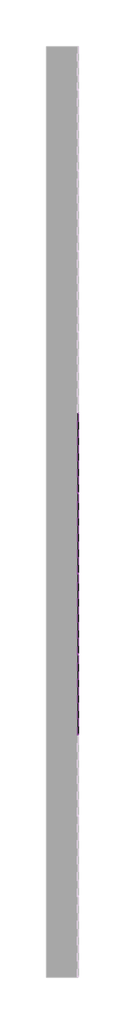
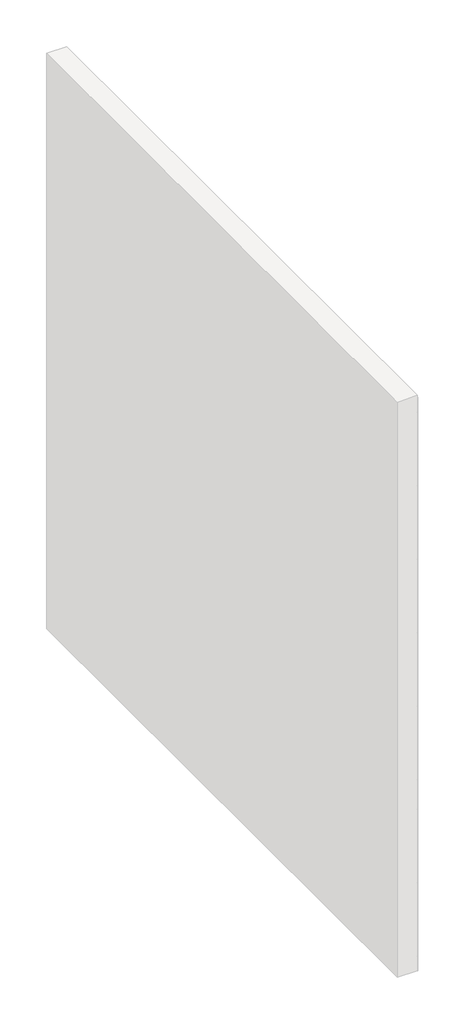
# One storey, part 10 of 45: 147 proxies.
"""IFC4 building model written with IfcOpenShell, lengths in millimetres."""

from ifc_helpers import new_model, si_unit, origin, place, context, project, spatial, transform, mapped, element, save
from components import generic_models_ab0f2c30

model = new_model("IFC4")

# Units and contexts
model_context = context("Model", 3, world=origin())
ifc_project = project(units=[si_unit("LENGTHUNIT", "METRE", prefix="MILLI")], contexts=[model_context])

# Site, building, storey
site = spatial("IfcSite", under=ifc_project)
building = spatial("IfcBuilding", under=site)
storey = spatial("IfcBuildingStorey", under=building, Name="PORTOBELLO - SHOWROOM", Elevation=0.0)

# Proxies
placement = place(None, origin())
generic_models_shape = generic_models_ab0f2c30(model_context)
element("IfcBuildingElementProxy", 1, Name="PBSHOP - HORIZONTES SANTORINI 6,5X23 : SANTORINI VILLA", ObjectType="PBSHOP - HORIZONTES SANTORINI 6,5X23 : SANTORINI VILLA", at=placement, inside=storey, context=model_context, shape_type="MappedRepresentation", body=[
    mapped(generic_models_shape, transform((63939.1036979, 12130.0312463, 34.5), x_axis=(0.0, 0.0, 1.0), y_axis=(0.0, -1.0, 0.0), z_axis=(1.0, 0.0, 0.0))),
])
element("IfcBuildingElementProxy", 2, Name="PBSHOP - HORIZONTES SANTORINI 6,5X23 : SANTORINI VILLA", ObjectType="PBSHOP - HORIZONTES SANTORINI 6,5X23 : SANTORINI VILLA", at=placement, inside=storey, context=model_context, shape_type="MappedRepresentation", body=[
    mapped(generic_models_shape, transform((63939.1036979, 12364.0312463, 34.5), x_axis=(0.0, 0.0, 1.0), y_axis=(0.0, -1.0, 0.0), z_axis=(1.0, 0.0, 0.0))),
])
element("IfcBuildingElementProxy", 3, Name="PBSHOP - HORIZONTES SANTORINI 6,5X23 : SANTORINI VILLA", ObjectType="PBSHOP - HORIZONTES SANTORINI 6,5X23 : SANTORINI VILLA", at=placement, inside=storey, context=model_context, shape_type="MappedRepresentation", body=[
    mapped(generic_models_shape, transform((63939.1036979, 12598.0312463, 34.5), x_axis=(0.0, 0.0, 1.0), y_axis=(0.0, -1.0, 0.0), z_axis=(1.0, 0.0, 0.0))),
])
element("IfcBuildingElementProxy", 4, Name="PBSHOP - HORIZONTES SANTORINI 6,5X23 : SANTORINI VILLA", ObjectType="PBSHOP - HORIZONTES SANTORINI 6,5X23 : SANTORINI VILLA", at=placement, inside=storey, context=model_context, shape_type="MappedRepresentation", body=[
    mapped(generic_models_shape, transform((63939.1036979, 12832.0312463, 34.5), x_axis=(0.0, 0.0, 1.0), y_axis=(0.0, -1.0, 0.0), z_axis=(1.0, 0.0, 0.0))),
])
element("IfcBuildingElementProxy", 5, Name="PBSHOP - HORIZONTES SANTORINI 6,5X23 : SANTORINI VILLA", ObjectType="PBSHOP - HORIZONTES SANTORINI 6,5X23 : SANTORINI VILLA", at=placement, inside=storey, context=model_context, shape_type="MappedRepresentation", body=[
    mapped(generic_models_shape, transform((63939.1036979, 12130.0312463, 103.5), x_axis=(0.0, 0.0, 1.0), y_axis=(0.0, -1.0, 0.0), z_axis=(1.0, 0.0, 0.0))),
])
element("IfcBuildingElementProxy", 6, Name="PBSHOP - HORIZONTES SANTORINI 6,5X23 : SANTORINI VILLA", ObjectType="PBSHOP - HORIZONTES SANTORINI 6,5X23 : SANTORINI VILLA", at=placement, inside=storey, context=model_context, shape_type="MappedRepresentation", body=[
    mapped(generic_models_shape, transform((63939.1036979, 12364.0312463, 103.5), x_axis=(0.0, 0.0, 1.0), y_axis=(0.0, -1.0, 0.0), z_axis=(1.0, 0.0, 0.0))),
])
element("IfcBuildingElementProxy", 7, Name="PBSHOP - HORIZONTES SANTORINI 6,5X23 : SANTORINI VILLA", ObjectType="PBSHOP - HORIZONTES SANTORINI 6,5X23 : SANTORINI VILLA", at=placement, inside=storey, context=model_context, shape_type="MappedRepresentation", body=[
    mapped(generic_models_shape, transform((63939.1036979, 12598.0312463, 103.5), x_axis=(0.0, 0.0, 1.0), y_axis=(0.0, -1.0, 0.0), z_axis=(1.0, 0.0, 0.0))),
])
element("IfcBuildingElementProxy", 8, Name="PBSHOP - HORIZONTES SANTORINI 6,5X23 : SANTORINI VILLA", ObjectType="PBSHOP - HORIZONTES SANTORINI 6,5X23 : SANTORINI VILLA", at=placement, inside=storey, context=model_context, shape_type="MappedRepresentation", body=[
    mapped(generic_models_shape, transform((63939.1036979, 12832.0312463, 103.5), x_axis=(0.0, 0.0, 1.0), y_axis=(0.0, -1.0, 0.0), z_axis=(1.0, 0.0, 0.0))),
])
element("IfcBuildingElementProxy", 9, Name="PBSHOP - HORIZONTES SANTORINI 6,5X23 : SANTORINI VILLA", ObjectType="PBSHOP - HORIZONTES SANTORINI 6,5X23 : SANTORINI VILLA", at=placement, inside=storey, context=model_context, shape_type="MappedRepresentation", body=[
    mapped(generic_models_shape, transform((63939.1036979, 12130.0312463, 172.5), x_axis=(0.0, 0.0, 1.0), y_axis=(0.0, -1.0, 0.0), z_axis=(1.0, 0.0, 0.0))),
])
element("IfcBuildingElementProxy", 10, Name="PBSHOP - HORIZONTES SANTORINI 6,5X23 : SANTORINI VILLA", ObjectType="PBSHOP - HORIZONTES SANTORINI 6,5X23 : SANTORINI VILLA", at=placement, inside=storey, context=model_context, shape_type="MappedRepresentation", body=[
    mapped(generic_models_shape, transform((63939.1036979, 12364.0312463, 172.5), x_axis=(0.0, 0.0, 1.0), y_axis=(0.0, -1.0, 0.0), z_axis=(1.0, 0.0, 0.0))),
])
element("IfcBuildingElementProxy", 11, Name="PBSHOP - HORIZONTES SANTORINI 6,5X23 : SANTORINI VILLA", ObjectType="PBSHOP - HORIZONTES SANTORINI 6,5X23 : SANTORINI VILLA", at=placement, inside=storey, context=model_context, shape_type="MappedRepresentation", body=[
    mapped(generic_models_shape, transform((63939.1036979, 12598.0312463, 172.5), x_axis=(0.0, 0.0, 1.0), y_axis=(0.0, -1.0, 0.0), z_axis=(1.0, 0.0, 0.0))),
])
element("IfcBuildingElementProxy", 12, Name="PBSHOP - HORIZONTES SANTORINI 6,5X23 : SANTORINI VILLA", ObjectType="PBSHOP - HORIZONTES SANTORINI 6,5X23 : SANTORINI VILLA", at=placement, inside=storey, context=model_context, shape_type="MappedRepresentation", body=[
    mapped(generic_models_shape, transform((63939.1036979, 12832.0312463, 172.5), x_axis=(0.0, 0.0, 1.0), y_axis=(0.0, -1.0, 0.0), z_axis=(1.0, 0.0, 0.0))),
])
element("IfcBuildingElementProxy", 13, Name="PBSHOP - HORIZONTES SANTORINI 6,5X23 : SANTORINI VILLA", ObjectType="PBSHOP - HORIZONTES SANTORINI 6,5X23 : SANTORINI VILLA", at=placement, inside=storey, context=model_context, shape_type="MappedRepresentation", body=[
    mapped(generic_models_shape, transform((63939.1036979, 12130.0312463, 241.5), x_axis=(0.0, 0.0, 1.0), y_axis=(0.0, -1.0, 0.0), z_axis=(1.0, 0.0, 0.0))),
])
element("IfcBuildingElementProxy", 14, Name="PBSHOP - HORIZONTES SANTORINI 6,5X23 : SANTORINI VILLA", ObjectType="PBSHOP - HORIZONTES SANTORINI 6,5X23 : SANTORINI VILLA", at=placement, inside=storey, context=model_context, shape_type="MappedRepresentation", body=[
    mapped(generic_models_shape, transform((63939.1036979, 12364.0312463, 241.5), x_axis=(0.0, 0.0, 1.0), y_axis=(0.0, -1.0, 0.0), z_axis=(1.0, 0.0, 0.0))),
])
element("IfcBuildingElementProxy", 15, Name="PBSHOP - HORIZONTES SANTORINI 6,5X23 : SANTORINI VILLA", ObjectType="PBSHOP - HORIZONTES SANTORINI 6,5X23 : SANTORINI VILLA", at=placement, inside=storey, context=model_context, shape_type="MappedRepresentation", body=[
    mapped(generic_models_shape, transform((63939.1036979, 12598.0312463, 241.5), x_axis=(0.0, 0.0, 1.0), y_axis=(0.0, -1.0, 0.0), z_axis=(1.0, 0.0, 0.0))),
])
element("IfcBuildingElementProxy", 16, Name="PBSHOP - HORIZONTES SANTORINI 6,5X23 : SANTORINI VILLA", ObjectType="PBSHOP - HORIZONTES SANTORINI 6,5X23 : SANTORINI VILLA", at=placement, inside=storey, context=model_context, shape_type="MappedRepresentation", body=[
    mapped(generic_models_shape, transform((63939.1036979, 12832.0312463, 241.5), x_axis=(0.0, 0.0, 1.0), y_axis=(0.0, -1.0, 0.0), z_axis=(1.0, 0.0, 0.0))),
])
element("IfcBuildingElementProxy", 17, Name="PBSHOP - HORIZONTES SANTORINI 6,5X23 : SANTORINI VILLA", ObjectType="PBSHOP - HORIZONTES SANTORINI 6,5X23 : SANTORINI VILLA", at=placement, inside=storey, context=model_context, shape_type="MappedRepresentation", body=[
    mapped(generic_models_shape, transform((63939.1036979, 12130.0312463, 310.5), x_axis=(0.0, 0.0, 1.0), y_axis=(0.0, -1.0, 0.0), z_axis=(1.0, 0.0, 0.0))),
])
element("IfcBuildingElementProxy", 18, Name="PBSHOP - HORIZONTES SANTORINI 6,5X23 : SANTORINI VILLA", ObjectType="PBSHOP - HORIZONTES SANTORINI 6,5X23 : SANTORINI VILLA", at=placement, inside=storey, context=model_context, shape_type="MappedRepresentation", body=[
    mapped(generic_models_shape, transform((63939.1036979, 12364.0312463, 310.5), x_axis=(0.0, 0.0, 1.0), y_axis=(0.0, -1.0, 0.0), z_axis=(1.0, 0.0, 0.0))),
])
element("IfcBuildingElementProxy", 19, Name="PBSHOP - HORIZONTES SANTORINI 6,5X23 : SANTORINI VILLA", ObjectType="PBSHOP - HORIZONTES SANTORINI 6,5X23 : SANTORINI VILLA", at=placement, inside=storey, context=model_context, shape_type="MappedRepresentation", body=[
    mapped(generic_models_shape, transform((63939.1036979, 12598.0312463, 310.5), x_axis=(0.0, 0.0, 1.0), y_axis=(0.0, -1.0, 0.0), z_axis=(1.0, 0.0, 0.0))),
])
element("IfcBuildingElementProxy", 20, Name="PBSHOP - HORIZONTES SANTORINI 6,5X23 : SANTORINI VILLA", ObjectType="PBSHOP - HORIZONTES SANTORINI 6,5X23 : SANTORINI VILLA", at=placement, inside=storey, context=model_context, shape_type="MappedRepresentation", body=[
    mapped(generic_models_shape, transform((63939.1036979, 12832.0312463, 310.5), x_axis=(0.0, 0.0, 1.0), y_axis=(0.0, -1.0, 0.0), z_axis=(1.0, 0.0, 0.0))),
])
element("IfcBuildingElementProxy", 21, Name="PBSHOP - HORIZONTES SANTORINI 6,5X23 : SANTORINI VILLA", ObjectType="PBSHOP - HORIZONTES SANTORINI 6,5X23 : SANTORINI VILLA", at=placement, inside=storey, context=model_context, shape_type="MappedRepresentation", body=[
    mapped(generic_models_shape, transform((63939.1036979, 12130.0312463, 379.5), x_axis=(0.0, 0.0, 1.0), y_axis=(0.0, -1.0, 0.0), z_axis=(1.0, 0.0, 0.0))),
])
element("IfcBuildingElementProxy", 22, Name="PBSHOP - HORIZONTES SANTORINI 6,5X23 : SANTORINI VILLA", ObjectType="PBSHOP - HORIZONTES SANTORINI 6,5X23 : SANTORINI VILLA", at=placement, inside=storey, context=model_context, shape_type="MappedRepresentation", body=[
    mapped(generic_models_shape, transform((63939.1036979, 12364.0312463, 379.5), x_axis=(0.0, 0.0, 1.0), y_axis=(0.0, -1.0, 0.0), z_axis=(1.0, 0.0, 0.0))),
])
element("IfcBuildingElementProxy", 23, Name="PBSHOP - HORIZONTES SANTORINI 6,5X23 : SANTORINI VILLA", ObjectType="PBSHOP - HORIZONTES SANTORINI 6,5X23 : SANTORINI VILLA", at=placement, inside=storey, context=model_context, shape_type="MappedRepresentation", body=[
    mapped(generic_models_shape, transform((63939.1036979, 12598.0312463, 379.5), x_axis=(0.0, 0.0, 1.0), y_axis=(0.0, -1.0, 0.0), z_axis=(1.0, 0.0, 0.0))),
])
element("IfcBuildingElementProxy", 24, Name="PBSHOP - HORIZONTES SANTORINI 6,5X23 : SANTORINI VILLA", ObjectType="PBSHOP - HORIZONTES SANTORINI 6,5X23 : SANTORINI VILLA", at=placement, inside=storey, context=model_context, shape_type="MappedRepresentation", body=[
    mapped(generic_models_shape, transform((63939.1036979, 12832.0312463, 379.5), x_axis=(0.0, 0.0, 1.0), y_axis=(0.0, -1.0, 0.0), z_axis=(1.0, 0.0, 0.0))),
])
element("IfcBuildingElementProxy", 25, Name="PBSHOP - HORIZONTES SANTORINI 6,5X23 : SANTORINI VILLA", ObjectType="PBSHOP - HORIZONTES SANTORINI 6,5X23 : SANTORINI VILLA", at=placement, inside=storey, context=model_context, shape_type="MappedRepresentation", body=[
    mapped(generic_models_shape, transform((63939.1036979, 12130.0312463, 448.5), x_axis=(0.0, 0.0, 1.0), y_axis=(0.0, -1.0, 0.0), z_axis=(1.0, 0.0, 0.0))),
])
element("IfcBuildingElementProxy", 26, Name="PBSHOP - HORIZONTES SANTORINI 6,5X23 : SANTORINI VILLA", ObjectType="PBSHOP - HORIZONTES SANTORINI 6,5X23 : SANTORINI VILLA", at=placement, inside=storey, context=model_context, shape_type="MappedRepresentation", body=[
    mapped(generic_models_shape, transform((63939.1036979, 12364.0312463, 448.5), x_axis=(0.0, 0.0, 1.0), y_axis=(0.0, -1.0, 0.0), z_axis=(1.0, 0.0, 0.0))),
])
element("IfcBuildingElementProxy", 27, Name="PBSHOP - HORIZONTES SANTORINI 6,5X23 : SANTORINI VILLA", ObjectType="PBSHOP - HORIZONTES SANTORINI 6,5X23 : SANTORINI VILLA", at=placement, inside=storey, context=model_context, shape_type="MappedRepresentation", body=[
    mapped(generic_models_shape, transform((63939.1036979, 12598.0312463, 448.5), x_axis=(0.0, 0.0, 1.0), y_axis=(0.0, -1.0, 0.0), z_axis=(1.0, 0.0, 0.0))),
])
element("IfcBuildingElementProxy", 28, Name="PBSHOP - HORIZONTES SANTORINI 6,5X23 : SANTORINI VILLA", ObjectType="PBSHOP - HORIZONTES SANTORINI 6,5X23 : SANTORINI VILLA", at=placement, inside=storey, context=model_context, shape_type="MappedRepresentation", body=[
    mapped(generic_models_shape, transform((63939.1036979, 12832.0312463, 448.5), x_axis=(0.0, 0.0, 1.0), y_axis=(0.0, -1.0, 0.0), z_axis=(1.0, 0.0, 0.0))),
])
element("IfcBuildingElementProxy", 29, Name="PBSHOP - HORIZONTES SANTORINI 6,5X23 : SANTORINI VILLA", ObjectType="PBSHOP - HORIZONTES SANTORINI 6,5X23 : SANTORINI VILLA", at=placement, inside=storey, context=model_context, shape_type="MappedRepresentation", body=[
    mapped(generic_models_shape, transform((63939.1036979, 12130.0312463, 517.5), x_axis=(0.0, 0.0, 1.0), y_axis=(0.0, -1.0, 0.0), z_axis=(1.0, 0.0, 0.0))),
])
element("IfcBuildingElementProxy", 30, Name="PBSHOP - HORIZONTES SANTORINI 6,5X23 : SANTORINI VILLA", ObjectType="PBSHOP - HORIZONTES SANTORINI 6,5X23 : SANTORINI VILLA", at=placement, inside=storey, context=model_context, shape_type="MappedRepresentation", body=[
    mapped(generic_models_shape, transform((63939.1036979, 12364.0312463, 517.5), x_axis=(0.0, 0.0, 1.0), y_axis=(0.0, -1.0, 0.0), z_axis=(1.0, 0.0, 0.0))),
])
element("IfcBuildingElementProxy", 31, Name="PBSHOP - HORIZONTES SANTORINI 6,5X23 : SANTORINI VILLA", ObjectType="PBSHOP - HORIZONTES SANTORINI 6,5X23 : SANTORINI VILLA", at=placement, inside=storey, context=model_context, shape_type="MappedRepresentation", body=[
    mapped(generic_models_shape, transform((63939.1036979, 12598.0312463, 517.5), x_axis=(0.0, 0.0, 1.0), y_axis=(0.0, -1.0, 0.0), z_axis=(1.0, 0.0, 0.0))),
])
element("IfcBuildingElementProxy", 32, Name="PBSHOP - HORIZONTES SANTORINI 6,5X23 : SANTORINI VILLA", ObjectType="PBSHOP - HORIZONTES SANTORINI 6,5X23 : SANTORINI VILLA", at=placement, inside=storey, context=model_context, shape_type="MappedRepresentation", body=[
    mapped(generic_models_shape, transform((63939.1036979, 12832.0312463, 517.5), x_axis=(0.0, 0.0, 1.0), y_axis=(0.0, -1.0, 0.0), z_axis=(1.0, 0.0, 0.0))),
])
element("IfcBuildingElementProxy", 33, Name="PBSHOP - HORIZONTES SANTORINI 6,5X23 : SANTORINI VILLA", ObjectType="PBSHOP - HORIZONTES SANTORINI 6,5X23 : SANTORINI VILLA", at=placement, inside=storey, context=model_context, shape_type="MappedRepresentation", body=[
    mapped(generic_models_shape, transform((63939.1036979, 12130.0312463, 586.5), x_axis=(0.0, 0.0, 1.0), y_axis=(0.0, -1.0, 0.0), z_axis=(1.0, 0.0, 0.0))),
])
element("IfcBuildingElementProxy", 34, Name="PBSHOP - HORIZONTES SANTORINI 6,5X23 : SANTORINI VILLA", ObjectType="PBSHOP - HORIZONTES SANTORINI 6,5X23 : SANTORINI VILLA", at=placement, inside=storey, context=model_context, shape_type="MappedRepresentation", body=[
    mapped(generic_models_shape, transform((63939.1036979, 12364.0312463, 586.5), x_axis=(0.0, 0.0, 1.0), y_axis=(0.0, -1.0, 0.0), z_axis=(1.0, 0.0, 0.0))),
])
element("IfcBuildingElementProxy", 35, Name="PBSHOP - HORIZONTES SANTORINI 6,5X23 : SANTORINI VILLA", ObjectType="PBSHOP - HORIZONTES SANTORINI 6,5X23 : SANTORINI VILLA", at=placement, inside=storey, context=model_context, shape_type="MappedRepresentation", body=[
    mapped(generic_models_shape, transform((63939.1036979, 12598.0312463, 586.5), x_axis=(0.0, 0.0, 1.0), y_axis=(0.0, -1.0, 0.0), z_axis=(1.0, 0.0, 0.0))),
])
element("IfcBuildingElementProxy", 36, Name="PBSHOP - HORIZONTES SANTORINI 6,5X23 : SANTORINI VILLA", ObjectType="PBSHOP - HORIZONTES SANTORINI 6,5X23 : SANTORINI VILLA", at=placement, inside=storey, context=model_context, shape_type="MappedRepresentation", body=[
    mapped(generic_models_shape, transform((63939.1036979, 12832.0312463, 586.5), x_axis=(0.0, 0.0, 1.0), y_axis=(0.0, -1.0, 0.0), z_axis=(1.0, 0.0, 0.0))),
])
element("IfcBuildingElementProxy", 37, Name="PBSHOP - HORIZONTES SANTORINI 6,5X23 : SANTORINI VILLA", ObjectType="PBSHOP - HORIZONTES SANTORINI 6,5X23 : SANTORINI VILLA", at=placement, inside=storey, context=model_context, shape_type="MappedRepresentation", body=[
    mapped(generic_models_shape, transform((63939.1036979, 12130.0312463, 655.5), x_axis=(0.0, 0.0, 1.0), y_axis=(0.0, -1.0, 0.0), z_axis=(1.0, 0.0, 0.0))),
])
element("IfcBuildingElementProxy", 38, Name="PBSHOP - HORIZONTES SANTORINI 6,5X23 : SANTORINI VILLA", ObjectType="PBSHOP - HORIZONTES SANTORINI 6,5X23 : SANTORINI VILLA", at=placement, inside=storey, context=model_context, shape_type="MappedRepresentation", body=[
    mapped(generic_models_shape, transform((63939.1036979, 12364.0312463, 655.5), x_axis=(0.0, 0.0, 1.0), y_axis=(0.0, -1.0, 0.0), z_axis=(1.0, 0.0, 0.0))),
])
element("IfcBuildingElementProxy", 39, Name="PBSHOP - HORIZONTES SANTORINI 6,5X23 : SANTORINI VILLA", ObjectType="PBSHOP - HORIZONTES SANTORINI 6,5X23 : SANTORINI VILLA", at=placement, inside=storey, context=model_context, shape_type="MappedRepresentation", body=[
    mapped(generic_models_shape, transform((63939.1036979, 12598.0312463, 655.5), x_axis=(0.0, 0.0, 1.0), y_axis=(0.0, -1.0, 0.0), z_axis=(1.0, 0.0, 0.0))),
])
element("IfcBuildingElementProxy", 40, Name="PBSHOP - HORIZONTES SANTORINI 6,5X23 : SANTORINI VILLA", ObjectType="PBSHOP - HORIZONTES SANTORINI 6,5X23 : SANTORINI VILLA", at=placement, inside=storey, context=model_context, shape_type="MappedRepresentation", body=[
    mapped(generic_models_shape, transform((63939.1036979, 12832.0312463, 655.5), x_axis=(0.0, 0.0, 1.0), y_axis=(0.0, -1.0, 0.0), z_axis=(1.0, 0.0, 0.0))),
])
element("IfcBuildingElementProxy", 41, Name="PBSHOP - HORIZONTES SANTORINI 6,5X23 : SANTORINI VILLA", ObjectType="PBSHOP - HORIZONTES SANTORINI 6,5X23 : SANTORINI VILLA", at=placement, inside=storey, context=model_context, shape_type="MappedRepresentation", body=[
    mapped(generic_models_shape, transform((63939.1036979, 12130.0312463, 724.5), x_axis=(0.0, 0.0, 1.0), y_axis=(0.0, -1.0, 0.0), z_axis=(1.0, 0.0, 0.0))),
])
element("IfcBuildingElementProxy", 42, Name="PBSHOP - HORIZONTES SANTORINI 6,5X23 : SANTORINI VILLA", ObjectType="PBSHOP - HORIZONTES SANTORINI 6,5X23 : SANTORINI VILLA", at=placement, inside=storey, context=model_context, shape_type="MappedRepresentation", body=[
    mapped(generic_models_shape, transform((63939.1036979, 12364.0312463, 724.5), x_axis=(0.0, 0.0, 1.0), y_axis=(0.0, -1.0, 0.0), z_axis=(1.0, 0.0, 0.0))),
])
element("IfcBuildingElementProxy", 43, Name="PBSHOP - HORIZONTES SANTORINI 6,5X23 : SANTORINI VILLA", ObjectType="PBSHOP - HORIZONTES SANTORINI 6,5X23 : SANTORINI VILLA", at=placement, inside=storey, context=model_context, shape_type="MappedRepresentation", body=[
    mapped(generic_models_shape, transform((63939.1036979, 11896.0312463, 862.5), x_axis=(0.0, 0.0, 1.0), y_axis=(0.0, -1.0, 0.0), z_axis=(1.0, 0.0, 0.0))),
])
element("IfcBuildingElementProxy", 44, Name="PBSHOP - HORIZONTES SANTORINI 6,5X23 : SANTORINI VILLA", ObjectType="PBSHOP - HORIZONTES SANTORINI 6,5X23 : SANTORINI VILLA", at=placement, inside=storey, context=model_context, shape_type="MappedRepresentation", body=[
    mapped(generic_models_shape, transform((63939.1036979, 11194.0312463, 931.5), x_axis=(0.0, 0.0, 1.0), y_axis=(0.0, -1.0, 0.0), z_axis=(1.0, 0.0, 0.0))),
])
element("IfcBuildingElementProxy", 45, Name="PBSHOP - HORIZONTES SANTORINI 6,5X23 : SANTORINI VILLA", ObjectType="PBSHOP - HORIZONTES SANTORINI 6,5X23 : SANTORINI VILLA", at=placement, inside=storey, context=model_context, shape_type="MappedRepresentation", body=[
    mapped(generic_models_shape, transform((63939.1036979, 11428.0312463, 931.5), x_axis=(0.0, 0.0, 1.0), y_axis=(0.0, -1.0, 0.0), z_axis=(1.0, 0.0, 0.0))),
])
element("IfcBuildingElementProxy", 46, Name="PBSHOP - HORIZONTES SANTORINI 6,5X23 : SANTORINI VILLA", ObjectType="PBSHOP - HORIZONTES SANTORINI 6,5X23 : SANTORINI VILLA", at=placement, inside=storey, context=model_context, shape_type="MappedRepresentation", body=[
    mapped(generic_models_shape, transform((63939.1036979, 11662.0312463, 931.5), x_axis=(0.0, 0.0, 1.0), y_axis=(0.0, -1.0, 0.0), z_axis=(1.0, 0.0, 0.0))),
])
element("IfcBuildingElementProxy", 47, Name="PBSHOP - HORIZONTES SANTORINI 6,5X23 : SANTORINI VILLA", ObjectType="PBSHOP - HORIZONTES SANTORINI 6,5X23 : SANTORINI VILLA", at=placement, inside=storey, context=model_context, shape_type="MappedRepresentation", body=[
    mapped(generic_models_shape, transform((63939.1036979, 11896.0312463, 931.5), x_axis=(0.0, 0.0, 1.0), y_axis=(0.0, -1.0, 0.0), z_axis=(1.0, 0.0, 0.0))),
])
element("IfcBuildingElementProxy", 48, Name="PBSHOP - HORIZONTES SANTORINI 6,5X23 : SANTORINI VILLA", ObjectType="PBSHOP - HORIZONTES SANTORINI 6,5X23 : SANTORINI VILLA", at=placement, inside=storey, context=model_context, shape_type="MappedRepresentation", body=[
    mapped(generic_models_shape, transform((63939.1036979, 11194.0312463, 1000.5), x_axis=(0.0, 0.0, 1.0), y_axis=(0.0, -1.0, 0.0), z_axis=(1.0, 0.0, 0.0))),
])
element("IfcBuildingElementProxy", 49, Name="PBSHOP - HORIZONTES SANTORINI 6,5X23 : SANTORINI VILLA", ObjectType="PBSHOP - HORIZONTES SANTORINI 6,5X23 : SANTORINI VILLA", at=placement, inside=storey, context=model_context, shape_type="MappedRepresentation", body=[
    mapped(generic_models_shape, transform((63939.1036979, 11428.0312463, 1000.5), x_axis=(0.0, 0.0, 1.0), y_axis=(0.0, -1.0, 0.0), z_axis=(1.0, 0.0, 0.0))),
])
element("IfcBuildingElementProxy", 50, Name="PBSHOP - HORIZONTES SANTORINI 6,5X23 : SANTORINI VILLA", ObjectType="PBSHOP - HORIZONTES SANTORINI 6,5X23 : SANTORINI VILLA", at=placement, inside=storey, context=model_context, shape_type="MappedRepresentation", body=[
    mapped(generic_models_shape, transform((63939.1036979, 11662.0312463, 1000.5), x_axis=(0.0, 0.0, 1.0), y_axis=(0.0, -1.0, 0.0), z_axis=(1.0, 0.0, 0.0))),
])
element("IfcBuildingElementProxy", 51, Name="PBSHOP - HORIZONTES SANTORINI 6,5X23 : SANTORINI VILLA", ObjectType="PBSHOP - HORIZONTES SANTORINI 6,5X23 : SANTORINI VILLA", at=placement, inside=storey, context=model_context, shape_type="MappedRepresentation", body=[
    mapped(generic_models_shape, transform((63939.1036979, 11896.0312463, 1000.5), x_axis=(0.0, 0.0, 1.0), y_axis=(0.0, -1.0, 0.0), z_axis=(1.0, 0.0, 0.0))),
])
element("IfcBuildingElementProxy", 52, Name="PBSHOP - HORIZONTES SANTORINI 6,5X23 : SANTORINI VILLA", ObjectType="PBSHOP - HORIZONTES SANTORINI 6,5X23 : SANTORINI VILLA", at=placement, inside=storey, context=model_context, shape_type="MappedRepresentation", body=[
    mapped(generic_models_shape, transform((63939.1036979, 11194.0312463, 1069.5), x_axis=(0.0, 0.0, 1.0), y_axis=(0.0, -1.0, 0.0), z_axis=(1.0, 0.0, 0.0))),
])
element("IfcBuildingElementProxy", 53, Name="PBSHOP - HORIZONTES SANTORINI 6,5X23 : SANTORINI VILLA", ObjectType="PBSHOP - HORIZONTES SANTORINI 6,5X23 : SANTORINI VILLA", at=placement, inside=storey, context=model_context, shape_type="MappedRepresentation", body=[
    mapped(generic_models_shape, transform((63939.1036979, 11428.0312463, 1069.5), x_axis=(0.0, 0.0, 1.0), y_axis=(0.0, -1.0, 0.0), z_axis=(1.0, 0.0, 0.0))),
])
element("IfcBuildingElementProxy", 54, Name="PBSHOP - HORIZONTES SANTORINI 6,5X23 : SANTORINI VILLA", ObjectType="PBSHOP - HORIZONTES SANTORINI 6,5X23 : SANTORINI VILLA", at=placement, inside=storey, context=model_context, shape_type="MappedRepresentation", body=[
    mapped(generic_models_shape, transform((63939.1036979, 11662.0312463, 1069.5), x_axis=(0.0, 0.0, 1.0), y_axis=(0.0, -1.0, 0.0), z_axis=(1.0, 0.0, 0.0))),
])
element("IfcBuildingElementProxy", 55, Name="PBSHOP - HORIZONTES SANTORINI 6,5X23 : SANTORINI VILLA", ObjectType="PBSHOP - HORIZONTES SANTORINI 6,5X23 : SANTORINI VILLA", at=placement, inside=storey, context=model_context, shape_type="MappedRepresentation", body=[
    mapped(generic_models_shape, transform((63939.1036979, 11896.0312463, 1069.5), x_axis=(0.0, 0.0, 1.0), y_axis=(0.0, -1.0, 0.0), z_axis=(1.0, 0.0, 0.0))),
])
element("IfcBuildingElementProxy", 56, Name="PBSHOP - HORIZONTES SANTORINI 6,5X23 : SANTORINI VILLA", ObjectType="PBSHOP - HORIZONTES SANTORINI 6,5X23 : SANTORINI VILLA", at=placement, inside=storey, context=model_context, shape_type="MappedRepresentation", body=[
    mapped(generic_models_shape, transform((63939.1036979, 11194.0312463, 1138.5), x_axis=(0.0, 0.0, 1.0), y_axis=(0.0, -1.0, 0.0), z_axis=(1.0, 0.0, 0.0))),
])
element("IfcBuildingElementProxy", 57, Name="PBSHOP - HORIZONTES SANTORINI 6,5X23 : SANTORINI VILLA", ObjectType="PBSHOP - HORIZONTES SANTORINI 6,5X23 : SANTORINI VILLA", at=placement, inside=storey, context=model_context, shape_type="MappedRepresentation", body=[
    mapped(generic_models_shape, transform((63939.1036979, 11428.0312463, 1138.5), x_axis=(0.0, 0.0, 1.0), y_axis=(0.0, -1.0, 0.0), z_axis=(1.0, 0.0, 0.0))),
])
element("IfcBuildingElementProxy", 58, Name="PBSHOP - HORIZONTES SANTORINI 6,5X23 : SANTORINI VILLA", ObjectType="PBSHOP - HORIZONTES SANTORINI 6,5X23 : SANTORINI VILLA", at=placement, inside=storey, context=model_context, shape_type="MappedRepresentation", body=[
    mapped(generic_models_shape, transform((63939.1036979, 11662.0312463, 1138.5), x_axis=(0.0, 0.0, 1.0), y_axis=(0.0, -1.0, 0.0), z_axis=(1.0, 0.0, 0.0))),
])
element("IfcBuildingElementProxy", 59, Name="PBSHOP - HORIZONTES SANTORINI 6,5X23 : SANTORINI VILLA", ObjectType="PBSHOP - HORIZONTES SANTORINI 6,5X23 : SANTORINI VILLA", at=placement, inside=storey, context=model_context, shape_type="MappedRepresentation", body=[
    mapped(generic_models_shape, transform((63939.1036979, 11896.0312463, 1138.5), x_axis=(0.0, 0.0, 1.0), y_axis=(0.0, -1.0, 0.0), z_axis=(1.0, 0.0, 0.0))),
])
element("IfcBuildingElementProxy", 60, Name="PBSHOP - HORIZONTES SANTORINI 6,5X23 : SANTORINI VILLA", ObjectType="PBSHOP - HORIZONTES SANTORINI 6,5X23 : SANTORINI VILLA", at=placement, inside=storey, context=model_context, shape_type="MappedRepresentation", body=[
    mapped(generic_models_shape, transform((63939.1036979, 11194.0312463, 1207.5), x_axis=(0.0, 0.0, 1.0), y_axis=(0.0, -1.0, 0.0), z_axis=(1.0, 0.0, 0.0))),
])
element("IfcBuildingElementProxy", 61, Name="PBSHOP - HORIZONTES SANTORINI 6,5X23 : SANTORINI VILLA", ObjectType="PBSHOP - HORIZONTES SANTORINI 6,5X23 : SANTORINI VILLA", at=placement, inside=storey, context=model_context, shape_type="MappedRepresentation", body=[
    mapped(generic_models_shape, transform((63939.1036979, 11428.0312463, 1207.5), x_axis=(0.0, 0.0, 1.0), y_axis=(0.0, -1.0, 0.0), z_axis=(1.0, 0.0, 0.0))),
])
element("IfcBuildingElementProxy", 62, Name="PBSHOP - HORIZONTES SANTORINI 6,5X23 : SANTORINI VILLA", ObjectType="PBSHOP - HORIZONTES SANTORINI 6,5X23 : SANTORINI VILLA", at=placement, inside=storey, context=model_context, shape_type="MappedRepresentation", body=[
    mapped(generic_models_shape, transform((63939.1036979, 11662.0312463, 1207.5), x_axis=(0.0, 0.0, 1.0), y_axis=(0.0, -1.0, 0.0), z_axis=(1.0, 0.0, 0.0))),
])
element("IfcBuildingElementProxy", 63, Name="PBSHOP - HORIZONTES SANTORINI 6,5X23 : SANTORINI VILLA", ObjectType="PBSHOP - HORIZONTES SANTORINI 6,5X23 : SANTORINI VILLA", at=placement, inside=storey, context=model_context, shape_type="MappedRepresentation", body=[
    mapped(generic_models_shape, transform((63939.1036979, 11896.0312463, 1207.5), x_axis=(0.0, 0.0, 1.0), y_axis=(0.0, -1.0, 0.0), z_axis=(1.0, 0.0, 0.0))),
])
element("IfcBuildingElementProxy", 64, Name="PBSHOP - HORIZONTES SANTORINI 6,5X23 : SANTORINI VILLA", ObjectType="PBSHOP - HORIZONTES SANTORINI 6,5X23 : SANTORINI VILLA", at=placement, inside=storey, context=model_context, shape_type="MappedRepresentation", body=[
    mapped(generic_models_shape, transform((63939.1036979, 11194.0312463, 1276.5), x_axis=(0.0, 0.0, 1.0), y_axis=(0.0, -1.0, 0.0), z_axis=(1.0, 0.0, 0.0))),
])
element("IfcBuildingElementProxy", 65, Name="PBSHOP - HORIZONTES SANTORINI 6,5X23 : SANTORINI VILLA", ObjectType="PBSHOP - HORIZONTES SANTORINI 6,5X23 : SANTORINI VILLA", at=placement, inside=storey, context=model_context, shape_type="MappedRepresentation", body=[
    mapped(generic_models_shape, transform((63939.1036979, 11428.0312463, 1276.5), x_axis=(0.0, 0.0, 1.0), y_axis=(0.0, -1.0, 0.0), z_axis=(1.0, 0.0, 0.0))),
])
element("IfcBuildingElementProxy", 66, Name="PBSHOP - HORIZONTES SANTORINI 6,5X23 : SANTORINI VILLA", ObjectType="PBSHOP - HORIZONTES SANTORINI 6,5X23 : SANTORINI VILLA", at=placement, inside=storey, context=model_context, shape_type="MappedRepresentation", body=[
    mapped(generic_models_shape, transform((63939.1036979, 11662.0312463, 1276.5), x_axis=(0.0, 0.0, 1.0), y_axis=(0.0, -1.0, 0.0), z_axis=(1.0, 0.0, 0.0))),
])
element("IfcBuildingElementProxy", 67, Name="PBSHOP - HORIZONTES SANTORINI 6,5X23 : SANTORINI VILLA", ObjectType="PBSHOP - HORIZONTES SANTORINI 6,5X23 : SANTORINI VILLA", at=placement, inside=storey, context=model_context, shape_type="MappedRepresentation", body=[
    mapped(generic_models_shape, transform((63939.1036979, 11896.0312463, 1276.5), x_axis=(0.0, 0.0, 1.0), y_axis=(0.0, -1.0, 0.0), z_axis=(1.0, 0.0, 0.0))),
])
element("IfcBuildingElementProxy", 68, Name="PBSHOP - HORIZONTES SANTORINI 6,5X23 : SANTORINI VILLA", ObjectType="PBSHOP - HORIZONTES SANTORINI 6,5X23 : SANTORINI VILLA", at=placement, inside=storey, context=model_context, shape_type="MappedRepresentation", body=[
    mapped(generic_models_shape, transform((63939.1036979, 11194.0312463, 1345.5), x_axis=(0.0, 0.0, 1.0), y_axis=(0.0, -1.0, 0.0), z_axis=(1.0, 0.0, 0.0))),
])
element("IfcBuildingElementProxy", 69, Name="PBSHOP - HORIZONTES SANTORINI 6,5X23 : SANTORINI VILLA", ObjectType="PBSHOP - HORIZONTES SANTORINI 6,5X23 : SANTORINI VILLA", at=placement, inside=storey, context=model_context, shape_type="MappedRepresentation", body=[
    mapped(generic_models_shape, transform((63939.1036979, 11428.0312463, 1345.5), x_axis=(0.0, 0.0, 1.0), y_axis=(0.0, -1.0, 0.0), z_axis=(1.0, 0.0, 0.0))),
])
element("IfcBuildingElementProxy", 70, Name="PBSHOP - HORIZONTES SANTORINI 6,5X23 : SANTORINI VILLA", ObjectType="PBSHOP - HORIZONTES SANTORINI 6,5X23 : SANTORINI VILLA", at=placement, inside=storey, context=model_context, shape_type="MappedRepresentation", body=[
    mapped(generic_models_shape, transform((63939.1036979, 11662.0312463, 1345.5), x_axis=(0.0, 0.0, 1.0), y_axis=(0.0, -1.0, 0.0), z_axis=(1.0, 0.0, 0.0))),
])
element("IfcBuildingElementProxy", 71, Name="PBSHOP - HORIZONTES SANTORINI 6,5X23 : SANTORINI VILLA", ObjectType="PBSHOP - HORIZONTES SANTORINI 6,5X23 : SANTORINI VILLA", at=placement, inside=storey, context=model_context, shape_type="MappedRepresentation", body=[
    mapped(generic_models_shape, transform((63939.1036979, 11896.0312463, 1345.5), x_axis=(0.0, 0.0, 1.0), y_axis=(0.0, -1.0, 0.0), z_axis=(1.0, 0.0, 0.0))),
])
element("IfcBuildingElementProxy", 72, Name="PBSHOP - HORIZONTES SANTORINI 6,5X23 : SANTORINI VILLA", ObjectType="PBSHOP - HORIZONTES SANTORINI 6,5X23 : SANTORINI VILLA", at=placement, inside=storey, context=model_context, shape_type="MappedRepresentation", body=[
    mapped(generic_models_shape, transform((63939.1036979, 11194.0312463, 1414.5), x_axis=(0.0, 0.0, 1.0), y_axis=(0.0, -1.0, 0.0), z_axis=(1.0, 0.0, 0.0))),
])
element("IfcBuildingElementProxy", 73, Name="PBSHOP - HORIZONTES SANTORINI 6,5X23 : SANTORINI VILLA", ObjectType="PBSHOP - HORIZONTES SANTORINI 6,5X23 : SANTORINI VILLA", at=placement, inside=storey, context=model_context, shape_type="MappedRepresentation", body=[
    mapped(generic_models_shape, transform((63939.1036979, 11428.0312463, 1414.5), x_axis=(0.0, 0.0, 1.0), y_axis=(0.0, -1.0, 0.0), z_axis=(1.0, 0.0, 0.0))),
])
element("IfcBuildingElementProxy", 74, Name="PBSHOP - HORIZONTES SANTORINI 6,5X23 : SANTORINI VILLA", ObjectType="PBSHOP - HORIZONTES SANTORINI 6,5X23 : SANTORINI VILLA", at=placement, inside=storey, context=model_context, shape_type="MappedRepresentation", body=[
    mapped(generic_models_shape, transform((63939.1036979, 11662.0312463, 1414.5), x_axis=(0.0, 0.0, 1.0), y_axis=(0.0, -1.0, 0.0), z_axis=(1.0, 0.0, 0.0))),
])
element("IfcBuildingElementProxy", 75, Name="PBSHOP - HORIZONTES SANTORINI 6,5X23 : SANTORINI VILLA", ObjectType="PBSHOP - HORIZONTES SANTORINI 6,5X23 : SANTORINI VILLA", at=placement, inside=storey, context=model_context, shape_type="MappedRepresentation", body=[
    mapped(generic_models_shape, transform((63939.1036979, 11896.0312463, 1414.5), x_axis=(0.0, 0.0, 1.0), y_axis=(0.0, -1.0, 0.0), z_axis=(1.0, 0.0, 0.0))),
])
element("IfcBuildingElementProxy", 76, Name="PBSHOP - HORIZONTES SANTORINI 6,5X23 : SANTORINI VILLA", ObjectType="PBSHOP - HORIZONTES SANTORINI 6,5X23 : SANTORINI VILLA", at=placement, inside=storey, context=model_context, shape_type="MappedRepresentation", body=[
    mapped(generic_models_shape, transform((63939.1036979, 11194.0312463, 1483.5), x_axis=(0.0, 0.0, 1.0), y_axis=(0.0, -1.0, 0.0), z_axis=(1.0, 0.0, 0.0))),
])
element("IfcBuildingElementProxy", 77, Name="PBSHOP - HORIZONTES SANTORINI 6,5X23 : SANTORINI VILLA", ObjectType="PBSHOP - HORIZONTES SANTORINI 6,5X23 : SANTORINI VILLA", at=placement, inside=storey, context=model_context, shape_type="MappedRepresentation", body=[
    mapped(generic_models_shape, transform((63939.1036979, 11428.0312463, 1483.5), x_axis=(0.0, 0.0, 1.0), y_axis=(0.0, -1.0, 0.0), z_axis=(1.0, 0.0, 0.0))),
])
element("IfcBuildingElementProxy", 78, Name="PBSHOP - HORIZONTES SANTORINI 6,5X23 : SANTORINI VILLA", ObjectType="PBSHOP - HORIZONTES SANTORINI 6,5X23 : SANTORINI VILLA", at=placement, inside=storey, context=model_context, shape_type="MappedRepresentation", body=[
    mapped(generic_models_shape, transform((63939.1036979, 11662.0312463, 1483.5), x_axis=(0.0, 0.0, 1.0), y_axis=(0.0, -1.0, 0.0), z_axis=(1.0, 0.0, 0.0))),
])
element("IfcBuildingElementProxy", 79, Name="PBSHOP - HORIZONTES SANTORINI 6,5X23 : SANTORINI VILLA", ObjectType="PBSHOP - HORIZONTES SANTORINI 6,5X23 : SANTORINI VILLA", at=placement, inside=storey, context=model_context, shape_type="MappedRepresentation", body=[
    mapped(generic_models_shape, transform((63939.1036979, 11896.0312463, 1483.5), x_axis=(0.0, 0.0, 1.0), y_axis=(0.0, -1.0, 0.0), z_axis=(1.0, 0.0, 0.0))),
])
element("IfcBuildingElementProxy", 80, Name="PBSHOP - HORIZONTES SANTORINI 6,5X23 : SANTORINI VILLA", ObjectType="PBSHOP - HORIZONTES SANTORINI 6,5X23 : SANTORINI VILLA", at=placement, inside=storey, context=model_context, shape_type="MappedRepresentation", body=[
    mapped(generic_models_shape, transform((63939.1036979, 11194.0312463, 1552.5), x_axis=(0.0, 0.0, 1.0), y_axis=(0.0, -1.0, 0.0), z_axis=(1.0, 0.0, 0.0))),
])
element("IfcBuildingElementProxy", 81, Name="PBSHOP - HORIZONTES SANTORINI 6,5X23 : SANTORINI VILLA", ObjectType="PBSHOP - HORIZONTES SANTORINI 6,5X23 : SANTORINI VILLA", at=placement, inside=storey, context=model_context, shape_type="MappedRepresentation", body=[
    mapped(generic_models_shape, transform((63939.1036979, 11428.0312463, 1552.5), x_axis=(0.0, 0.0, 1.0), y_axis=(0.0, -1.0, 0.0), z_axis=(1.0, 0.0, 0.0))),
])
element("IfcBuildingElementProxy", 82, Name="PBSHOP - HORIZONTES SANTORINI 6,5X23 : SANTORINI VILLA", ObjectType="PBSHOP - HORIZONTES SANTORINI 6,5X23 : SANTORINI VILLA", at=placement, inside=storey, context=model_context, shape_type="MappedRepresentation", body=[
    mapped(generic_models_shape, transform((63939.1036979, 11662.0312463, 1552.5), x_axis=(0.0, 0.0, 1.0), y_axis=(0.0, -1.0, 0.0), z_axis=(1.0, 0.0, 0.0))),
])
element("IfcBuildingElementProxy", 83, Name="PBSHOP - HORIZONTES SANTORINI 6,5X23 : SANTORINI VILLA", ObjectType="PBSHOP - HORIZONTES SANTORINI 6,5X23 : SANTORINI VILLA", at=placement, inside=storey, context=model_context, shape_type="MappedRepresentation", body=[
    mapped(generic_models_shape, transform((63939.1036979, 11896.0312463, 1552.5), x_axis=(0.0, 0.0, 1.0), y_axis=(0.0, -1.0, 0.0), z_axis=(1.0, 0.0, 0.0))),
])
element("IfcBuildingElementProxy", 84, Name="PBSHOP - HORIZONTES SANTORINI 6,5X23 : SANTORINI VILLA", ObjectType="PBSHOP - HORIZONTES SANTORINI 6,5X23 : SANTORINI VILLA", at=placement, inside=storey, context=model_context, shape_type="MappedRepresentation", body=[
    mapped(generic_models_shape, transform((63939.1036979, 11194.0312463, 1621.5), x_axis=(0.0, 0.0, 1.0), y_axis=(0.0, -1.0, 0.0), z_axis=(1.0, 0.0, 0.0))),
])
element("IfcBuildingElementProxy", 85, Name="PBSHOP - HORIZONTES SANTORINI 6,5X23 : SANTORINI VILLA", ObjectType="PBSHOP - HORIZONTES SANTORINI 6,5X23 : SANTORINI VILLA", at=placement, inside=storey, context=model_context, shape_type="MappedRepresentation", body=[
    mapped(generic_models_shape, transform((63939.1036979, 11428.0312463, 1621.5), x_axis=(0.0, 0.0, 1.0), y_axis=(0.0, -1.0, 0.0), z_axis=(1.0, 0.0, 0.0))),
])
element("IfcBuildingElementProxy", 86, Name="PBSHOP - HORIZONTES SANTORINI 6,5X23 : SANTORINI VILLA", ObjectType="PBSHOP - HORIZONTES SANTORINI 6,5X23 : SANTORINI VILLA", at=placement, inside=storey, context=model_context, shape_type="MappedRepresentation", body=[
    mapped(generic_models_shape, transform((63939.1036979, 11662.0312463, 1621.5), x_axis=(0.0, 0.0, 1.0), y_axis=(0.0, -1.0, 0.0), z_axis=(1.0, 0.0, 0.0))),
])
element("IfcBuildingElementProxy", 87, Name="PBSHOP - HORIZONTES SANTORINI 6,5X23 : SANTORINI VILLA", ObjectType="PBSHOP - HORIZONTES SANTORINI 6,5X23 : SANTORINI VILLA", at=placement, inside=storey, context=model_context, shape_type="MappedRepresentation", body=[
    mapped(generic_models_shape, transform((63939.1036979, 11896.0312463, 1621.5), x_axis=(0.0, 0.0, 1.0), y_axis=(0.0, -1.0, 0.0), z_axis=(1.0, 0.0, 0.0))),
])
element("IfcBuildingElementProxy", 88, Name="PBSHOP - HORIZONTES SANTORINI 6,5X23 : SANTORINI VILLA", ObjectType="PBSHOP - HORIZONTES SANTORINI 6,5X23 : SANTORINI VILLA", at=placement, inside=storey, context=model_context, shape_type="MappedRepresentation", body=[
    mapped(generic_models_shape, transform((63939.1036979, 11194.0312463, 1690.5), x_axis=(0.0, 0.0, 1.0), y_axis=(0.0, -1.0, 0.0), z_axis=(1.0, 0.0, 0.0))),
])
element("IfcBuildingElementProxy", 89, Name="PBSHOP - HORIZONTES SANTORINI 6,5X23 : SANTORINI VILLA", ObjectType="PBSHOP - HORIZONTES SANTORINI 6,5X23 : SANTORINI VILLA", at=placement, inside=storey, context=model_context, shape_type="MappedRepresentation", body=[
    mapped(generic_models_shape, transform((63939.1036979, 11428.0312463, 1690.5), x_axis=(0.0, 0.0, 1.0), y_axis=(0.0, -1.0, 0.0), z_axis=(1.0, 0.0, 0.0))),
])
element("IfcBuildingElementProxy", 90, Name="PBSHOP - HORIZONTES SANTORINI 6,5X23 : SANTORINI VILLA", ObjectType="PBSHOP - HORIZONTES SANTORINI 6,5X23 : SANTORINI VILLA", at=placement, inside=storey, context=model_context, shape_type="MappedRepresentation", body=[
    mapped(generic_models_shape, transform((63939.1036979, 11662.0312463, 1690.5), x_axis=(0.0, 0.0, 1.0), y_axis=(0.0, -1.0, 0.0), z_axis=(1.0, 0.0, 0.0))),
])
element("IfcBuildingElementProxy", 91, Name="PBSHOP - HORIZONTES SANTORINI 6,5X23 : SANTORINI VILLA", ObjectType="PBSHOP - HORIZONTES SANTORINI 6,5X23 : SANTORINI VILLA", at=placement, inside=storey, context=model_context, shape_type="MappedRepresentation", body=[
    mapped(generic_models_shape, transform((63939.1036979, 11896.0312463, 1690.5), x_axis=(0.0, 0.0, 1.0), y_axis=(0.0, -1.0, 0.0), z_axis=(1.0, 0.0, 0.0))),
])
element("IfcBuildingElementProxy", 92, Name="PBSHOP - HORIZONTES SANTORINI 6,5X23 : SANTORINI VILLA", ObjectType="PBSHOP - HORIZONTES SANTORINI 6,5X23 : SANTORINI VILLA", at=placement, inside=storey, context=model_context, shape_type="MappedRepresentation", body=[
    mapped(generic_models_shape, transform((63939.1036979, 11194.0312463, 1759.5), x_axis=(0.0, 0.0, 1.0), y_axis=(0.0, -1.0, 0.0), z_axis=(1.0, 0.0, 0.0))),
])
element("IfcBuildingElementProxy", 93, Name="PBSHOP - HORIZONTES SANTORINI 6,5X23 : SANTORINI VILLA", ObjectType="PBSHOP - HORIZONTES SANTORINI 6,5X23 : SANTORINI VILLA", at=placement, inside=storey, context=model_context, shape_type="MappedRepresentation", body=[
    mapped(generic_models_shape, transform((63939.1036979, 11428.0312463, 1759.5), x_axis=(0.0, 0.0, 1.0), y_axis=(0.0, -1.0, 0.0), z_axis=(1.0, 0.0, 0.0))),
])
element("IfcBuildingElementProxy", 94, Name="PBSHOP - HORIZONTES SANTORINI 6,5X23 : SANTORINI VILLA", ObjectType="PBSHOP - HORIZONTES SANTORINI 6,5X23 : SANTORINI VILLA", at=placement, inside=storey, context=model_context, shape_type="MappedRepresentation", body=[
    mapped(generic_models_shape, transform((63939.1036979, 11662.0312463, 1759.5), x_axis=(0.0, 0.0, 1.0), y_axis=(0.0, -1.0, 0.0), z_axis=(1.0, 0.0, 0.0))),
])
element("IfcBuildingElementProxy", 95, Name="PBSHOP - HORIZONTES SANTORINI 6,5X23 : SANTORINI VILLA", ObjectType="PBSHOP - HORIZONTES SANTORINI 6,5X23 : SANTORINI VILLA", at=placement, inside=storey, context=model_context, shape_type="MappedRepresentation", body=[
    mapped(generic_models_shape, transform((63939.1036979, 11896.0312463, 1759.5), x_axis=(0.0, 0.0, 1.0), y_axis=(0.0, -1.0, 0.0), z_axis=(1.0, 0.0, 0.0))),
])
element("IfcBuildingElementProxy", 96, Name="PBSHOP - HORIZONTES SANTORINI 6,5X23 : SANTORINI VILLA", ObjectType="PBSHOP - HORIZONTES SANTORINI 6,5X23 : SANTORINI VILLA", at=placement, inside=storey, context=model_context, shape_type="MappedRepresentation", body=[
    mapped(generic_models_shape, transform((63939.1036979, 11194.0312463, 1828.5), x_axis=(0.0, 0.0, 1.0), y_axis=(0.0, -1.0, 0.0), z_axis=(1.0, 0.0, 0.0))),
])
element("IfcBuildingElementProxy", 97, Name="PBSHOP - HORIZONTES SANTORINI 6,5X23 : SANTORINI VILLA", ObjectType="PBSHOP - HORIZONTES SANTORINI 6,5X23 : SANTORINI VILLA", at=placement, inside=storey, context=model_context, shape_type="MappedRepresentation", body=[
    mapped(generic_models_shape, transform((63939.1036979, 11428.0312463, 1828.5), x_axis=(0.0, 0.0, 1.0), y_axis=(0.0, -1.0, 0.0), z_axis=(1.0, 0.0, 0.0))),
])
element("IfcBuildingElementProxy", 98, Name="PBSHOP - HORIZONTES SANTORINI 6,5X23 : SANTORINI VILLA", ObjectType="PBSHOP - HORIZONTES SANTORINI 6,5X23 : SANTORINI VILLA", at=placement, inside=storey, context=model_context, shape_type="MappedRepresentation", body=[
    mapped(generic_models_shape, transform((63939.1036979, 11662.0312463, 1828.5), x_axis=(0.0, 0.0, 1.0), y_axis=(0.0, -1.0, 0.0), z_axis=(1.0, 0.0, 0.0))),
])
element("IfcBuildingElementProxy", 99, Name="PBSHOP - HORIZONTES SANTORINI 6,5X23 : SANTORINI VILLA", ObjectType="PBSHOP - HORIZONTES SANTORINI 6,5X23 : SANTORINI VILLA", at=placement, inside=storey, context=model_context, shape_type="MappedRepresentation", body=[
    mapped(generic_models_shape, transform((63939.1036979, 11896.0312463, 1828.5), x_axis=(0.0, 0.0, 1.0), y_axis=(0.0, -1.0, 0.0), z_axis=(1.0, 0.0, 0.0))),
])
element("IfcBuildingElementProxy", 100, Name="PBSHOP - HORIZONTES SANTORINI 6,5X23 : SANTORINI VILLA", ObjectType="PBSHOP - HORIZONTES SANTORINI 6,5X23 : SANTORINI VILLA", at=placement, inside=storey, context=model_context, shape_type="MappedRepresentation", body=[
    mapped(generic_models_shape, transform((63939.1036979, 11194.0312463, 1897.5), x_axis=(0.0, 0.0, 1.0), y_axis=(0.0, -1.0, 0.0), z_axis=(1.0, 0.0, 0.0))),
])
element("IfcBuildingElementProxy", 101, Name="PBSHOP - HORIZONTES SANTORINI 6,5X23 : SANTORINI VILLA", ObjectType="PBSHOP - HORIZONTES SANTORINI 6,5X23 : SANTORINI VILLA", at=placement, inside=storey, context=model_context, shape_type="MappedRepresentation", body=[
    mapped(generic_models_shape, transform((63939.1036979, 11428.0312463, 1897.5), x_axis=(0.0, 0.0, 1.0), y_axis=(0.0, -1.0, 0.0), z_axis=(1.0, 0.0, 0.0))),
])
element("IfcBuildingElementProxy", 102, Name="PBSHOP - HORIZONTES SANTORINI 6,5X23 : SANTORINI VILLA", ObjectType="PBSHOP - HORIZONTES SANTORINI 6,5X23 : SANTORINI VILLA", at=placement, inside=storey, context=model_context, shape_type="MappedRepresentation", body=[
    mapped(generic_models_shape, transform((63939.1036979, 11662.0312463, 1897.5), x_axis=(0.0, 0.0, 1.0), y_axis=(0.0, -1.0, 0.0), z_axis=(1.0, 0.0, 0.0))),
])
element("IfcBuildingElementProxy", 103, Name="PBSHOP - HORIZONTES SANTORINI 6,5X23 : SANTORINI VILLA", ObjectType="PBSHOP - HORIZONTES SANTORINI 6,5X23 : SANTORINI VILLA", at=placement, inside=storey, context=model_context, shape_type="MappedRepresentation", body=[
    mapped(generic_models_shape, transform((63939.1036979, 11896.0312463, 1897.5), x_axis=(0.0, 0.0, 1.0), y_axis=(0.0, -1.0, 0.0), z_axis=(1.0, 0.0, 0.0))),
])
element("IfcBuildingElementProxy", 104, Name="PBSHOP - HORIZONTES SANTORINI 6,5X23 : SANTORINI VILLA", ObjectType="PBSHOP - HORIZONTES SANTORINI 6,5X23 : SANTORINI VILLA", at=placement, inside=storey, context=model_context, shape_type="MappedRepresentation", body=[
    mapped(generic_models_shape, transform((63939.1036979, 11194.0312463, 1966.5), x_axis=(0.0, 0.0, 1.0), y_axis=(0.0, -1.0, 0.0), z_axis=(1.0, 0.0, 0.0))),
])
element("IfcBuildingElementProxy", 105, Name="PBSHOP - HORIZONTES SANTORINI 6,5X23 : SANTORINI VILLA", ObjectType="PBSHOP - HORIZONTES SANTORINI 6,5X23 : SANTORINI VILLA", at=placement, inside=storey, context=model_context, shape_type="MappedRepresentation", body=[
    mapped(generic_models_shape, transform((63939.1036979, 11428.0312463, 1966.5), x_axis=(0.0, 0.0, 1.0), y_axis=(0.0, -1.0, 0.0), z_axis=(1.0, 0.0, 0.0))),
])
element("IfcBuildingElementProxy", 106, Name="PBSHOP - HORIZONTES SANTORINI 6,5X23 : SANTORINI VILLA", ObjectType="PBSHOP - HORIZONTES SANTORINI 6,5X23 : SANTORINI VILLA", at=placement, inside=storey, context=model_context, shape_type="MappedRepresentation", body=[
    mapped(generic_models_shape, transform((63939.1036979, 11662.0312463, 1966.5), x_axis=(0.0, 0.0, 1.0), y_axis=(0.0, -1.0, 0.0), z_axis=(1.0, 0.0, 0.0))),
])
element("IfcBuildingElementProxy", 107, Name="PBSHOP - HORIZONTES SANTORINI 6,5X23 : SANTORINI VILLA", ObjectType="PBSHOP - HORIZONTES SANTORINI 6,5X23 : SANTORINI VILLA", at=placement, inside=storey, context=model_context, shape_type="MappedRepresentation", body=[
    mapped(generic_models_shape, transform((63939.1036979, 11896.0312463, 1966.5), x_axis=(0.0, 0.0, 1.0), y_axis=(0.0, -1.0, 0.0), z_axis=(1.0, 0.0, 0.0))),
])
element("IfcBuildingElementProxy", 108, Name="PBSHOP - HORIZONTES SANTORINI 6,5X23 : SANTORINI VILLA", ObjectType="PBSHOP - HORIZONTES SANTORINI 6,5X23 : SANTORINI VILLA", at=placement, inside=storey, context=model_context, shape_type="MappedRepresentation", body=[
    mapped(generic_models_shape, transform((63939.1036979, 11194.0312463, 2035.5), x_axis=(0.0, 0.0, 1.0), y_axis=(0.0, -1.0, 0.0), z_axis=(1.0, 0.0, 0.0))),
])
element("IfcBuildingElementProxy", 109, Name="PBSHOP - HORIZONTES SANTORINI 6,5X23 : SANTORINI VILLA", ObjectType="PBSHOP - HORIZONTES SANTORINI 6,5X23 : SANTORINI VILLA", at=placement, inside=storey, context=model_context, shape_type="MappedRepresentation", body=[
    mapped(generic_models_shape, transform((63939.1036979, 11428.0312463, 2035.5), x_axis=(0.0, 0.0, 1.0), y_axis=(0.0, -1.0, 0.0), z_axis=(1.0, 0.0, 0.0))),
])
element("IfcBuildingElementProxy", 110, Name="PBSHOP - HORIZONTES SANTORINI 6,5X23 : SANTORINI VILLA", ObjectType="PBSHOP - HORIZONTES SANTORINI 6,5X23 : SANTORINI VILLA", at=placement, inside=storey, context=model_context, shape_type="MappedRepresentation", body=[
    mapped(generic_models_shape, transform((63939.1036979, 11662.0312463, 2035.5), x_axis=(0.0, 0.0, 1.0), y_axis=(0.0, -1.0, 0.0), z_axis=(1.0, 0.0, 0.0))),
])
element("IfcBuildingElementProxy", 111, Name="PBSHOP - HORIZONTES SANTORINI 6,5X23 : SANTORINI VILLA", ObjectType="PBSHOP - HORIZONTES SANTORINI 6,5X23 : SANTORINI VILLA", at=placement, inside=storey, context=model_context, shape_type="MappedRepresentation", body=[
    mapped(generic_models_shape, transform((63939.1036979, 11896.0312463, 2035.5), x_axis=(0.0, 0.0, 1.0), y_axis=(0.0, -1.0, 0.0), z_axis=(1.0, 0.0, 0.0))),
])
element("IfcBuildingElementProxy", 112, Name="PBSHOP - HORIZONTES SANTORINI 6,5X23 : SANTORINI VILLA", ObjectType="PBSHOP - HORIZONTES SANTORINI 6,5X23 : SANTORINI VILLA", at=placement, inside=storey, context=model_context, shape_type="MappedRepresentation", body=[
    mapped(generic_models_shape, transform((63939.1036979, 11194.0312463, 2104.5), x_axis=(0.0, 0.0, 1.0), y_axis=(0.0, -1.0, 0.0), z_axis=(1.0, 0.0, 0.0))),
])
element("IfcBuildingElementProxy", 113, Name="PBSHOP - HORIZONTES SANTORINI 6,5X23 : SANTORINI VILLA", ObjectType="PBSHOP - HORIZONTES SANTORINI 6,5X23 : SANTORINI VILLA", at=placement, inside=storey, context=model_context, shape_type="MappedRepresentation", body=[
    mapped(generic_models_shape, transform((63939.1036979, 11428.0312463, 2104.5), x_axis=(0.0, 0.0, 1.0), y_axis=(0.0, -1.0, 0.0), z_axis=(1.0, 0.0, 0.0))),
])
element("IfcBuildingElementProxy", 114, Name="PBSHOP - HORIZONTES SANTORINI 6,5X23 : SANTORINI VILLA", ObjectType="PBSHOP - HORIZONTES SANTORINI 6,5X23 : SANTORINI VILLA", at=placement, inside=storey, context=model_context, shape_type="MappedRepresentation", body=[
    mapped(generic_models_shape, transform((63939.1036979, 11662.0312463, 2104.5), x_axis=(0.0, 0.0, 1.0), y_axis=(0.0, -1.0, 0.0), z_axis=(1.0, 0.0, 0.0))),
])
element("IfcBuildingElementProxy", 115, Name="PBSHOP - HORIZONTES SANTORINI 6,5X23 : SANTORINI VILLA", ObjectType="PBSHOP - HORIZONTES SANTORINI 6,5X23 : SANTORINI VILLA", at=placement, inside=storey, context=model_context, shape_type="MappedRepresentation", body=[
    mapped(generic_models_shape, transform((63939.1036979, 11896.0312463, 2104.5), x_axis=(0.0, 0.0, 1.0), y_axis=(0.0, -1.0, 0.0), z_axis=(1.0, 0.0, 0.0))),
])
element("IfcBuildingElementProxy", 116, Name="PBSHOP - HORIZONTES SANTORINI 6,5X23 : SANTORINI VILLA", ObjectType="PBSHOP - HORIZONTES SANTORINI 6,5X23 : SANTORINI VILLA", at=placement, inside=storey, context=model_context, shape_type="MappedRepresentation", body=[
    mapped(generic_models_shape, transform((63939.1036979, 11194.0312463, 2173.5), x_axis=(0.0, 0.0, 1.0), y_axis=(0.0, -1.0, 0.0), z_axis=(1.0, 0.0, 0.0))),
])
element("IfcBuildingElementProxy", 117, Name="PBSHOP - HORIZONTES SANTORINI 6,5X23 : SANTORINI VILLA", ObjectType="PBSHOP - HORIZONTES SANTORINI 6,5X23 : SANTORINI VILLA", at=placement, inside=storey, context=model_context, shape_type="MappedRepresentation", body=[
    mapped(generic_models_shape, transform((63939.1036979, 11428.0312463, 2173.5), x_axis=(0.0, 0.0, 1.0), y_axis=(0.0, -1.0, 0.0), z_axis=(1.0, 0.0, 0.0))),
])
element("IfcBuildingElementProxy", 118, Name="PBSHOP - HORIZONTES SANTORINI 6,5X23 : SANTORINI VILLA", ObjectType="PBSHOP - HORIZONTES SANTORINI 6,5X23 : SANTORINI VILLA", at=placement, inside=storey, context=model_context, shape_type="MappedRepresentation", body=[
    mapped(generic_models_shape, transform((63939.1036979, 11662.0312463, 2173.5), x_axis=(0.0, 0.0, 1.0), y_axis=(0.0, -1.0, 0.0), z_axis=(1.0, 0.0, 0.0))),
])
element("IfcBuildingElementProxy", 119, Name="PBSHOP - HORIZONTES SANTORINI 6,5X23 : SANTORINI VILLA", ObjectType="PBSHOP - HORIZONTES SANTORINI 6,5X23 : SANTORINI VILLA", at=placement, inside=storey, context=model_context, shape_type="MappedRepresentation", body=[
    mapped(generic_models_shape, transform((63939.1036979, 11896.0312463, 2173.5), x_axis=(0.0, 0.0, 1.0), y_axis=(0.0, -1.0, 0.0), z_axis=(1.0, 0.0, 0.0))),
])
element("IfcBuildingElementProxy", 120, Name="PBSHOP - HORIZONTES SANTORINI 6,5X23 : SANTORINI VILLA", ObjectType="PBSHOP - HORIZONTES SANTORINI 6,5X23 : SANTORINI VILLA", at=placement, inside=storey, context=model_context, shape_type="MappedRepresentation", body=[
    mapped(generic_models_shape, transform((63939.1036979, 11194.0312463, 2242.5), x_axis=(0.0, 0.0, 1.0), y_axis=(0.0, -1.0, 0.0), z_axis=(1.0, 0.0, 0.0))),
])
element("IfcBuildingElementProxy", 121, Name="PBSHOP - HORIZONTES SANTORINI 6,5X23 : SANTORINI VILLA", ObjectType="PBSHOP - HORIZONTES SANTORINI 6,5X23 : SANTORINI VILLA", at=placement, inside=storey, context=model_context, shape_type="MappedRepresentation", body=[
    mapped(generic_models_shape, transform((63939.1036979, 11428.0312463, 2242.5), x_axis=(0.0, 0.0, 1.0), y_axis=(0.0, -1.0, 0.0), z_axis=(1.0, 0.0, 0.0))),
])
element("IfcBuildingElementProxy", 122, Name="PBSHOP - HORIZONTES SANTORINI 6,5X23 : SANTORINI VILLA", ObjectType="PBSHOP - HORIZONTES SANTORINI 6,5X23 : SANTORINI VILLA", at=placement, inside=storey, context=model_context, shape_type="MappedRepresentation", body=[
    mapped(generic_models_shape, transform((63939.1036979, 11662.0312463, 2242.5), x_axis=(0.0, 0.0, 1.0), y_axis=(0.0, -1.0, 0.0), z_axis=(1.0, 0.0, 0.0))),
])
element("IfcBuildingElementProxy", 123, Name="PBSHOP - HORIZONTES SANTORINI 6,5X23 : SANTORINI VILLA", ObjectType="PBSHOP - HORIZONTES SANTORINI 6,5X23 : SANTORINI VILLA", at=placement, inside=storey, context=model_context, shape_type="MappedRepresentation", body=[
    mapped(generic_models_shape, transform((63939.1036979, 11896.0312463, 2242.5), x_axis=(0.0, 0.0, 1.0), y_axis=(0.0, -1.0, 0.0), z_axis=(1.0, 0.0, 0.0))),
])
element("IfcBuildingElementProxy", 124, Name="PBSHOP - HORIZONTES SANTORINI 6,5X23 : SANTORINI VILLA", ObjectType="PBSHOP - HORIZONTES SANTORINI 6,5X23 : SANTORINI VILLA", at=placement, inside=storey, context=model_context, shape_type="MappedRepresentation", body=[
    mapped(generic_models_shape, transform((63939.1036979, 11194.0312463, 2311.5), x_axis=(0.0, 0.0, 1.0), y_axis=(0.0, -1.0, 0.0), z_axis=(1.0, 0.0, 0.0))),
])
element("IfcBuildingElementProxy", 125, Name="PBSHOP - HORIZONTES SANTORINI 6,5X23 : SANTORINI VILLA", ObjectType="PBSHOP - HORIZONTES SANTORINI 6,5X23 : SANTORINI VILLA", at=placement, inside=storey, context=model_context, shape_type="MappedRepresentation", body=[
    mapped(generic_models_shape, transform((63939.1036979, 11428.0312463, 2311.5), x_axis=(0.0, 0.0, 1.0), y_axis=(0.0, -1.0, 0.0), z_axis=(1.0, 0.0, 0.0))),
])
element("IfcBuildingElementProxy", 126, Name="PBSHOP - HORIZONTES SANTORINI 6,5X23 : SANTORINI VILLA", ObjectType="PBSHOP - HORIZONTES SANTORINI 6,5X23 : SANTORINI VILLA", at=placement, inside=storey, context=model_context, shape_type="MappedRepresentation", body=[
    mapped(generic_models_shape, transform((63939.1036979, 11662.0312463, 2311.5), x_axis=(0.0, 0.0, 1.0), y_axis=(0.0, -1.0, 0.0), z_axis=(1.0, 0.0, 0.0))),
])
element("IfcBuildingElementProxy", 127, Name="PBSHOP - HORIZONTES SANTORINI 6,5X23 : SANTORINI VILLA", ObjectType="PBSHOP - HORIZONTES SANTORINI 6,5X23 : SANTORINI VILLA", at=placement, inside=storey, context=model_context, shape_type="MappedRepresentation", body=[
    mapped(generic_models_shape, transform((63939.1036979, 11896.0312463, 2311.5), x_axis=(0.0, 0.0, 1.0), y_axis=(0.0, -1.0, 0.0), z_axis=(1.0, 0.0, 0.0))),
])
element("IfcBuildingElementProxy", 128, Name="PBSHOP - HORIZONTES SANTORINI 6,5X23 : SANTORINI VILLA", ObjectType="PBSHOP - HORIZONTES SANTORINI 6,5X23 : SANTORINI VILLA", at=placement, inside=storey, context=model_context, shape_type="MappedRepresentation", body=[
    mapped(generic_models_shape, transform((63939.1036979, 11194.0312463, 2380.5), x_axis=(0.0, 0.0, 1.0), y_axis=(0.0, -1.0, 0.0), z_axis=(1.0, 0.0, 0.0))),
])
element("IfcBuildingElementProxy", 129, Name="PBSHOP - HORIZONTES SANTORINI 6,5X23 : SANTORINI VILLA", ObjectType="PBSHOP - HORIZONTES SANTORINI 6,5X23 : SANTORINI VILLA", at=placement, inside=storey, context=model_context, shape_type="MappedRepresentation", body=[
    mapped(generic_models_shape, transform((63939.1036979, 11428.0312463, 2380.5), x_axis=(0.0, 0.0, 1.0), y_axis=(0.0, -1.0, 0.0), z_axis=(1.0, 0.0, 0.0))),
])
element("IfcBuildingElementProxy", 130, Name="PBSHOP - HORIZONTES SANTORINI 6,5X23 : SANTORINI VILLA", ObjectType="PBSHOP - HORIZONTES SANTORINI 6,5X23 : SANTORINI VILLA", at=placement, inside=storey, context=model_context, shape_type="MappedRepresentation", body=[
    mapped(generic_models_shape, transform((63939.1036979, 11662.0312463, 2380.5), x_axis=(0.0, 0.0, 1.0), y_axis=(0.0, -1.0, 0.0), z_axis=(1.0, 0.0, 0.0))),
])
element("IfcBuildingElementProxy", 131, Name="PBSHOP - HORIZONTES SANTORINI 6,5X23 : SANTORINI VILLA", ObjectType="PBSHOP - HORIZONTES SANTORINI 6,5X23 : SANTORINI VILLA", at=placement, inside=storey, context=model_context, shape_type="MappedRepresentation", body=[
    mapped(generic_models_shape, transform((63939.1036979, 11896.0312463, 2380.5), x_axis=(0.0, 0.0, 1.0), y_axis=(0.0, -1.0, 0.0), z_axis=(1.0, 0.0, 0.0))),
])
element("IfcBuildingElementProxy", 132, Name="PBSHOP - HORIZONTES SANTORINI 6,5X23 : SANTORINI VILLA", ObjectType="PBSHOP - HORIZONTES SANTORINI 6,5X23 : SANTORINI VILLA", at=placement, inside=storey, context=model_context, shape_type="MappedRepresentation", body=[
    mapped(generic_models_shape, transform((63939.1036979, 11194.0312463, 2449.5), x_axis=(0.0, 0.0, 1.0), y_axis=(0.0, -1.0, 0.0), z_axis=(1.0, 0.0, 0.0))),
])
element("IfcBuildingElementProxy", 133, Name="PBSHOP - HORIZONTES SANTORINI 6,5X23 : SANTORINI VILLA", ObjectType="PBSHOP - HORIZONTES SANTORINI 6,5X23 : SANTORINI VILLA", at=placement, inside=storey, context=model_context, shape_type="MappedRepresentation", body=[
    mapped(generic_models_shape, transform((63939.1036979, 11428.0312463, 2449.5), x_axis=(0.0, 0.0, 1.0), y_axis=(0.0, -1.0, 0.0), z_axis=(1.0, 0.0, 0.0))),
])
element("IfcBuildingElementProxy", 134, Name="PBSHOP - HORIZONTES SANTORINI 6,5X23 : SANTORINI VILLA", ObjectType="PBSHOP - HORIZONTES SANTORINI 6,5X23 : SANTORINI VILLA", at=placement, inside=storey, context=model_context, shape_type="MappedRepresentation", body=[
    mapped(generic_models_shape, transform((63939.1036979, 11662.0312463, 2449.5), x_axis=(0.0, 0.0, 1.0), y_axis=(0.0, -1.0, 0.0), z_axis=(1.0, 0.0, 0.0))),
])
element("IfcBuildingElementProxy", 135, Name="PBSHOP - HORIZONTES SANTORINI 6,5X23 : SANTORINI VILLA", ObjectType="PBSHOP - HORIZONTES SANTORINI 6,5X23 : SANTORINI VILLA", at=placement, inside=storey, context=model_context, shape_type="MappedRepresentation", body=[
    mapped(generic_models_shape, transform((63939.1036979, 11896.0312463, 2449.5), x_axis=(0.0, 0.0, 1.0), y_axis=(0.0, -1.0, 0.0), z_axis=(1.0, 0.0, 0.0))),
])
element("IfcBuildingElementProxy", 136, Name="PBSHOP - HORIZONTES SANTORINI 6,5X23 : SANTORINI VILLA", ObjectType="PBSHOP - HORIZONTES SANTORINI 6,5X23 : SANTORINI VILLA", at=placement, inside=storey, context=model_context, shape_type="MappedRepresentation", body=[
    mapped(generic_models_shape, transform((63939.1036979, 11194.0312463, 2518.5), x_axis=(0.0, 0.0, 1.0), y_axis=(0.0, -1.0, 0.0), z_axis=(1.0, 0.0, 0.0))),
])
element("IfcBuildingElementProxy", 137, Name="PBSHOP - HORIZONTES SANTORINI 6,5X23 : SANTORINI VILLA", ObjectType="PBSHOP - HORIZONTES SANTORINI 6,5X23 : SANTORINI VILLA", at=placement, inside=storey, context=model_context, shape_type="MappedRepresentation", body=[
    mapped(generic_models_shape, transform((63939.1036979, 11428.0312463, 2518.5), x_axis=(0.0, 0.0, 1.0), y_axis=(0.0, -1.0, 0.0), z_axis=(1.0, 0.0, 0.0))),
])
element("IfcBuildingElementProxy", 138, Name="PBSHOP - HORIZONTES SANTORINI 6,5X23 : SANTORINI VILLA", ObjectType="PBSHOP - HORIZONTES SANTORINI 6,5X23 : SANTORINI VILLA", at=placement, inside=storey, context=model_context, shape_type="MappedRepresentation", body=[
    mapped(generic_models_shape, transform((63939.1036979, 11662.0312463, 2518.5), x_axis=(0.0, 0.0, 1.0), y_axis=(0.0, -1.0, 0.0), z_axis=(1.0, 0.0, 0.0))),
])
element("IfcBuildingElementProxy", 139, Name="PBSHOP - HORIZONTES SANTORINI 6,5X23 : SANTORINI VILLA", ObjectType="PBSHOP - HORIZONTES SANTORINI 6,5X23 : SANTORINI VILLA", at=placement, inside=storey, context=model_context, shape_type="MappedRepresentation", body=[
    mapped(generic_models_shape, transform((63939.1036979, 11896.0312463, 2518.5), x_axis=(0.0, 0.0, 1.0), y_axis=(0.0, -1.0, 0.0), z_axis=(1.0, 0.0, 0.0))),
])
element("IfcBuildingElementProxy", 140, Name="PBSHOP - HORIZONTES SANTORINI 6,5X23 : SANTORINI VILLA", ObjectType="PBSHOP - HORIZONTES SANTORINI 6,5X23 : SANTORINI VILLA", at=placement, inside=storey, context=model_context, shape_type="MappedRepresentation", body=[
    mapped(generic_models_shape, transform((63939.1036979, 11194.0312463, 2587.5), x_axis=(0.0, 0.0, 1.0), y_axis=(0.0, -1.0, 0.0), z_axis=(1.0, 0.0, 0.0))),
])
element("IfcBuildingElementProxy", 141, Name="PBSHOP - HORIZONTES SANTORINI 6,5X23 : SANTORINI VILLA", ObjectType="PBSHOP - HORIZONTES SANTORINI 6,5X23 : SANTORINI VILLA", at=placement, inside=storey, context=model_context, shape_type="MappedRepresentation", body=[
    mapped(generic_models_shape, transform((63939.1036979, 11428.0312463, 2587.5), x_axis=(0.0, 0.0, 1.0), y_axis=(0.0, -1.0, 0.0), z_axis=(1.0, 0.0, 0.0))),
])
element("IfcBuildingElementProxy", 142, Name="PBSHOP - HORIZONTES SANTORINI 6,5X23 : SANTORINI VILLA", ObjectType="PBSHOP - HORIZONTES SANTORINI 6,5X23 : SANTORINI VILLA", at=placement, inside=storey, context=model_context, shape_type="MappedRepresentation", body=[
    mapped(generic_models_shape, transform((63939.1036979, 11662.0312463, 2587.5), x_axis=(0.0, 0.0, 1.0), y_axis=(0.0, -1.0, 0.0), z_axis=(1.0, 0.0, 0.0))),
])
element("IfcBuildingElementProxy", 143, Name="PBSHOP - HORIZONTES SANTORINI 6,5X23 : SANTORINI VILLA", ObjectType="PBSHOP - HORIZONTES SANTORINI 6,5X23 : SANTORINI VILLA", at=placement, inside=storey, context=model_context, shape_type="MappedRepresentation", body=[
    mapped(generic_models_shape, transform((63939.1036979, 11896.0312463, 2587.5), x_axis=(0.0, 0.0, 1.0), y_axis=(0.0, -1.0, 0.0), z_axis=(1.0, 0.0, 0.0))),
])
element("IfcBuildingElementProxy", 144, Name="PBSHOP - HORIZONTES SANTORINI 6,5X23 : SANTORINI VILLA", ObjectType="PBSHOP - HORIZONTES SANTORINI 6,5X23 : SANTORINI VILLA", at=placement, inside=storey, context=model_context, shape_type="MappedRepresentation", body=[
    mapped(generic_models_shape, transform((63939.1036979, 11194.0312463, 2656.5), x_axis=(0.0, 0.0, 1.0), y_axis=(0.0, -1.0, 0.0), z_axis=(1.0, 0.0, 0.0))),
])
element("IfcBuildingElementProxy", 145, Name="PBSHOP - HORIZONTES SANTORINI 6,5X23 : SANTORINI VILLA", ObjectType="PBSHOP - HORIZONTES SANTORINI 6,5X23 : SANTORINI VILLA", at=placement, inside=storey, context=model_context, shape_type="MappedRepresentation", body=[
    mapped(generic_models_shape, transform((63939.1036979, 11428.0312463, 2656.5), x_axis=(0.0, 0.0, 1.0), y_axis=(0.0, -1.0, 0.0), z_axis=(1.0, 0.0, 0.0))),
])
element("IfcBuildingElementProxy", 146, Name="PBSHOP - HORIZONTES SANTORINI 6,5X23 : SANTORINI VILLA", ObjectType="PBSHOP - HORIZONTES SANTORINI 6,5X23 : SANTORINI VILLA", at=placement, inside=storey, context=model_context, shape_type="MappedRepresentation", body=[
    mapped(generic_models_shape, transform((63939.1036979, 11662.0312463, 2656.5), x_axis=(0.0, 0.0, 1.0), y_axis=(0.0, -1.0, 0.0), z_axis=(1.0, 0.0, 0.0))),
])
element("IfcBuildingElementProxy", 147, Name="PBSHOP - HORIZONTES SANTORINI 6,5X23 : SANTORINI VILLA", ObjectType="PBSHOP - HORIZONTES SANTORINI 6,5X23 : SANTORINI VILLA", at=placement, inside=storey, context=model_context, shape_type="MappedRepresentation", body=[
    mapped(generic_models_shape, transform((63939.1036979, 11896.0312463, 2656.5), x_axis=(0.0, 0.0, 1.0), y_axis=(0.0, -1.0, 0.0), z_axis=(1.0, 0.0, 0.0))),
])

save(model, "model.ifc")
